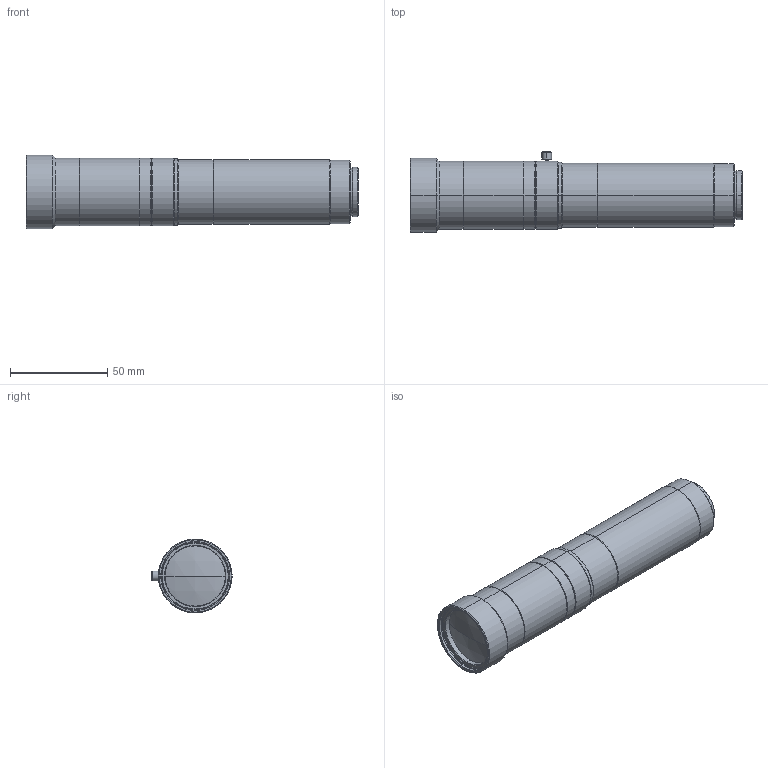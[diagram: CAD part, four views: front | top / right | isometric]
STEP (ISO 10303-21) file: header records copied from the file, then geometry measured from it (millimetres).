
FILE_DESCRIPTION (( 'STEP AP203' ), '1' );
FILE_NAME ('VS-THV2-110_S.STEP', '2016-07-04T01:02:04', ( 'miura_vst' ), ( '' ), 'SwSTEP 2.0', 'SolidWorks 2016', '' );
FILE_SCHEMA (( 'CONFIG_CONTROL_DESIGN' ));
Length unit declared in the file: millimetre
Products named in the file (1): VS-THV2-110_S
Bounding box: 170.98 x 41.3 x 38 mm (x, y, z)
Volume: 99232.1 mm3; surface area: 30036.8 mm2
Topology: 1 solids, 1 shells, 145 faces, 292 edges, 166 vertices
Faces by surface type: cone 72, cylinder 50, plane 19, torus 2, sphere 2
Entity records: 3839 total; most frequent: DIRECTION 746, CARTESIAN_POINT 634, ORIENTED_EDGE 580, AXIS2_PLACEMENT_3D 312, EDGE_CURVE 290, CIRCLE 166, VERTEX_POINT 166, EDGE_LOOP 164
